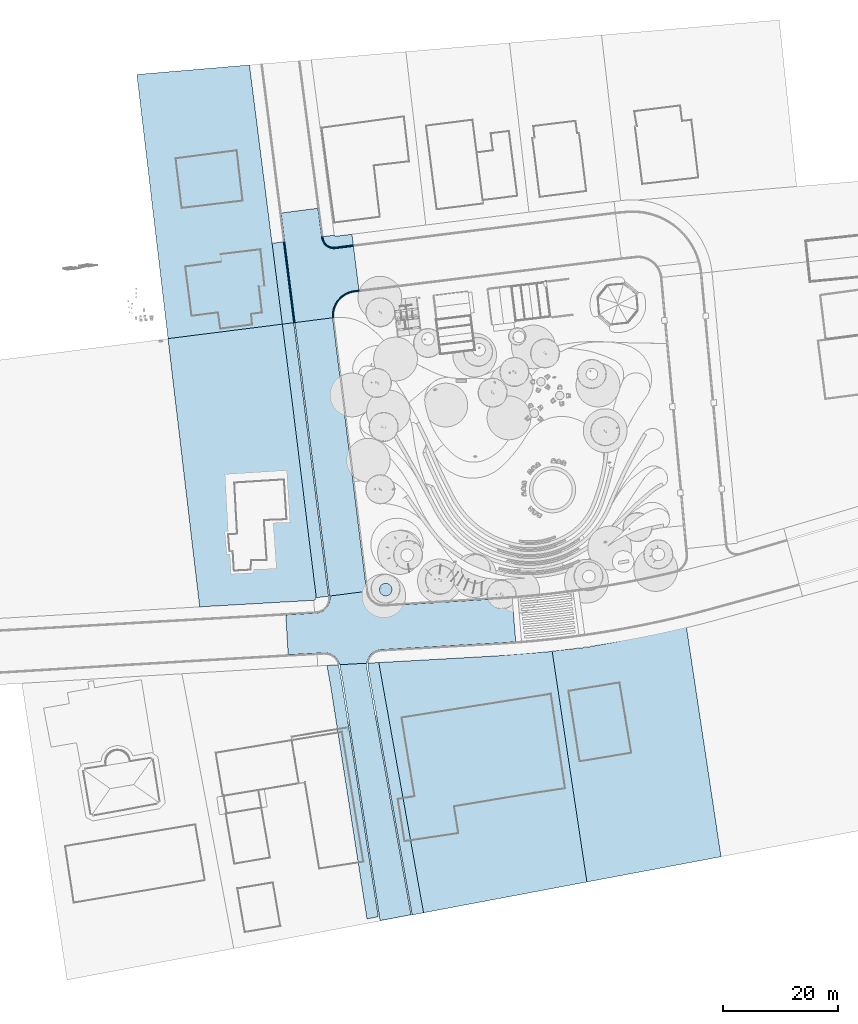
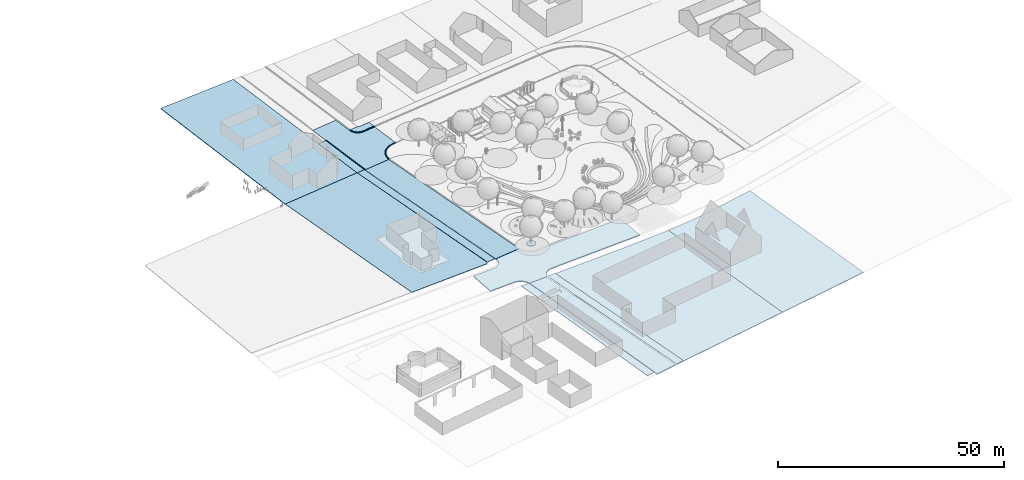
# One storey, part 8 of 75: 17 slabs.
"""IFC2X3 building model written with IfcOpenShell, lengths in metres."""

from ifc_helpers import new_model, entity, si_unit, converted_unit, derived_unit, direction, frame, frame_2d, origin, place, context, subcontext, project, spatial, polyline, circle_curve, ellipse_curve, parameter, trimmed, segment, composite_curve, circle, outline, extrude, clip, halfspace, material, layer, layer_set, layer_usage, type_object, element, save


model = new_model("IFC2X3")

# Units and contexts
model_context = context("Model", 3, precision=1e-05, world=origin(), true_north=direction((6.123031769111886e-17, 1.0)))
body_context = subcontext(model_context, "Body", "Model", "MODEL_VIEW")
ifc_project = project(units=[si_unit("LENGTHUNIT", "METRE"), si_unit("AREAUNIT", "SQUARE_METRE"), si_unit("VOLUMEUNIT", "CUBIC_METRE"), converted_unit("PLANEANGLEUNIT", "DEGREE", entity("IfcRatioMeasure", 0.017453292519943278), si_unit("PLANEANGLEUNIT", "RADIAN"), dimensions=[0, 0, 0, 0, 0, 0, 0]), si_unit("MASSUNIT", "GRAM", prefix="KILO"), derived_unit("MASSDENSITYUNIT", [(si_unit("MASSUNIT", "GRAM", prefix="KILO"), 1), (si_unit("LENGTHUNIT", "METRE"), -3)]), derived_unit("IONCONCENTRATIONUNIT", [(si_unit("MASSUNIT", "GRAM", prefix="KILO"), 1), (si_unit("LENGTHUNIT", "METRE"), -3)]), derived_unit("MOMENTOFINERTIAUNIT", [(si_unit("LENGTHUNIT", "METRE"), 4)]), si_unit("TIMEUNIT", "SECOND"), si_unit("FREQUENCYUNIT", "HERTZ"), si_unit("THERMODYNAMICTEMPERATUREUNIT", "DEGREE_CELSIUS"), derived_unit("THERMALTRANSMITTANCEUNIT", [(si_unit("MASSUNIT", "GRAM", prefix="KILO"), 1), (si_unit("THERMODYNAMICTEMPERATUREUNIT", "KELVIN"), -1), (si_unit("TIMEUNIT", "SECOND"), -3)]), derived_unit("THERMALCONDUCTANCEUNIT", [(si_unit("MASSUNIT", "GRAM", prefix="KILO"), 1), (si_unit("THERMODYNAMICTEMPERATUREUNIT", "KELVIN"), -1), (si_unit("TIMEUNIT", "SECOND"), -3), (si_unit("LENGTHUNIT", "METRE"), 1)]), derived_unit("VOLUMETRICFLOWRATEUNIT", [(si_unit("LENGTHUNIT", "METRE"), 3), (si_unit("TIMEUNIT", "SECOND"), -1)]), derived_unit("MASSFLOWRATEUNIT", [(si_unit("MASSUNIT", "GRAM", prefix="KILO"), 1), (si_unit("TIMEUNIT", "SECOND"), -1)]), derived_unit("ROTATIONALFREQUENCYUNIT", [(si_unit("TIMEUNIT", "SECOND"), -1)]), si_unit("ELECTRICCURRENTUNIT", "AMPERE"), si_unit("ELECTRICVOLTAGEUNIT", "VOLT"), si_unit("POWERUNIT", "WATT"), si_unit("FORCEUNIT", "NEWTON", prefix="KILO"), si_unit("ILLUMINANCEUNIT", "LUX"), si_unit("LUMINOUSFLUXUNIT", "LUMEN"), si_unit("LUMINOUSINTENSITYUNIT", "CANDELA"), derived_unit("USERDEFINED", [(si_unit("MASSUNIT", "GRAM", prefix="KILO"), -1), (si_unit("LENGTHUNIT", "METRE"), -2), (si_unit("TIMEUNIT", "SECOND"), 3), (si_unit("LUMINOUSFLUXUNIT", "LUMEN"), 1)]), derived_unit("USERDEFINED", [(si_unit("MASSUNIT", "GRAM", prefix="KILO"), 1), (si_unit("TIMEUNIT", "SECOND"), -3), (si_unit("LENGTHUNIT", "METRE"), 3), (si_unit("ELECTRICCURRENTUNIT", "AMPERE"), -2)]), derived_unit("SOUNDPOWERUNIT", [(si_unit("MASSUNIT", "GRAM", prefix="KILO"), 1), (si_unit("TIMEUNIT", "SECOND"), -3), (si_unit("LENGTHUNIT", "METRE"), 2)]), derived_unit("SOUNDPRESSUREUNIT", [(si_unit("MASSUNIT", "GRAM", prefix="KILO"), 1), (si_unit("LENGTHUNIT", "METRE"), -1), (si_unit("TIMEUNIT", "SECOND"), -2)]), derived_unit("LINEARVELOCITYUNIT", [(si_unit("LENGTHUNIT", "METRE"), 1), (si_unit("TIMEUNIT", "SECOND"), -1)]), si_unit("PRESSUREUNIT", "PASCAL"), derived_unit("USERDEFINED", [(si_unit("MASSUNIT", "GRAM", prefix="KILO"), 1), (si_unit("LENGTHUNIT", "METRE"), -2), (si_unit("TIMEUNIT", "SECOND"), -2)]), derived_unit("LINEARFORCEUNIT", [(si_unit("MASSUNIT", "GRAM", prefix="KILO"), 1), (si_unit("TIMEUNIT", "SECOND"), -2)]), derived_unit("PLANARFORCEUNIT", [(si_unit("MASSUNIT", "GRAM", prefix="KILO"), 1), (si_unit("LENGTHUNIT", "METRE"), -1), (si_unit("TIMEUNIT", "SECOND"), -2)]), derived_unit("SPECIFICHEATCAPACITYUNIT", [(si_unit("THERMODYNAMICTEMPERATUREUNIT", "KELVIN"), -1), (si_unit("LENGTHUNIT", "METRE"), 2), (si_unit("TIMEUNIT", "SECOND"), -2)]), derived_unit("HEATINGVALUEUNIT", [(si_unit("LENGTHUNIT", "METRE"), 2), (si_unit("TIMEUNIT", "SECOND"), -2)]), derived_unit("VAPORPERMEABILITYUNIT", [(si_unit("LENGTHUNIT", "METRE"), -1), (si_unit("TIMEUNIT", "SECOND"), 1)]), derived_unit("DYNAMICVISCOSITYUNIT", [(si_unit("MASSUNIT", "GRAM", prefix="KILO"), 1), (si_unit("TIMEUNIT", "SECOND"), -1), (si_unit("LENGTHUNIT", "METRE"), -1)]), derived_unit("THERMALEXPANSIONCOEFFICIENTUNIT", [(si_unit("THERMODYNAMICTEMPERATUREUNIT", "KELVIN"), -1)]), derived_unit("MODULUSOFELASTICITYUNIT", [(si_unit("MASSUNIT", "GRAM", prefix="KILO"), 1), (si_unit("LENGTHUNIT", "METRE"), -1), (si_unit("TIMEUNIT", "SECOND"), -2)]), derived_unit("ISOTHERMALMOISTURECAPACITYUNIT", [(si_unit("LENGTHUNIT", "METRE"), 3), (si_unit("MASSUNIT", "GRAM", prefix="KILO"), -1)]), derived_unit("MOISTUREDIFFUSIVITYUNIT", [(si_unit("TIMEUNIT", "SECOND"), -1), (si_unit("LENGTHUNIT", "METRE"), 2)])], contexts=[model_context])

# Site, building, storey
site_placement = place(None, origin())
site = spatial("IfcSite", under=ifc_project, at=site_placement, Name="Default", CompositionType="ELEMENT")
building_placement = place(site_placement, origin())
building = spatial("IfcBuilding", under=site, at=building_placement, Name="Projeto", CompositionType="ELEMENT")
storey_placement = place(building_placement, origin())
storey = spatial("IfcBuildingStorey", under=building, at=storey_placement, Name="Nível 1", CompositionType="ELEMENT", Elevation=0.0)

# Slabs
ifc_material_1 = material(Name="Piso CAJOI PASSEIO(1)")
ifc_layer_1 = layer(ifc_material_1, 0.1)
ifc_layer_set_1 = layer_set([ifc_layer_1], Name="Piso:Basalto 40x80")
ifc_layer_usage_1 = layer_usage(ifc_layer_set_1, "AXIS3", "POSITIVE", 0.0)
slab_type_1 = type_object("IfcSlabType", Name="Piso:Basalto 40x80", PredefinedType="FLOOR", material=ifc_layer_set_1)
slab_1_placement = place(storey_placement, origin())
element("IfcSlab", 1, at=slab_1_placement, inside=storey, type_object=slab_type_1, material=ifc_layer_usage_1, Name="Piso:Basalto 40x80", ObjectType="Piso:Basalto 40x80", PredefinedType="FLOOR", context=body_context, shape_type="SweptSolid", body=[
    extrude(outline(composite_curve([segment(polyline([(0.418029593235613, -0.9754166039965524), (2.296980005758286, -1.6315296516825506)]), True, "CONTINUOUS"), segment(trimmed(circle_curve(frame_2d((0.5646139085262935, -0.8219183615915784), x_axis=(0.30859720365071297, 0.9511928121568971)), 1.912214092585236), [parameter(262.9259478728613)], [parameter(0.0)], True, "PARAMETER"), True, "CONTINUOUS"), segment(polyline([(1.1547178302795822, 0.9969659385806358), (-1.7678358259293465, 2.03730721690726)]), True, "CONTINUOUS"), segment(polyline([(-1.7678358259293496, 2.0373072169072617), (-2.3983748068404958, 0.265980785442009)]), True, "CONTINUOUS"), segment(polyline([(-2.398374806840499, 0.26598078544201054), (0.2964832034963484, -0.693307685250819)]), True, "CONTINUOUS"), segment(trimmed(circle_curve(frame_2d((0.02986929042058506, -0.9754166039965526), x_axis=(1.0, 0.0)), 0.38816030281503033), [parameter(0.0)], [parameter(46.617506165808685)], True, "PARAMETER"), False, "CONTINUOUS")], self_intersect=False)), frame((-28.262879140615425, 42.87375954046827, -2.6), z_axis=(0.0, 0.0, 1.0), x_axis=(-0.8932114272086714, -0.44963690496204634, 0.0)), (0.0, 0.0, -1.0), 0.1),
])
slab_2_placement = place(storey_placement, frame((-38.06998931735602, -19.24905074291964, -2.7001481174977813)))
element("IfcSlab", 2, at=slab_2_placement, inside=storey, type_object=slab_type_1, material=ifc_layer_usage_1, Name="Piso:Basalto 40x80", ObjectType="Piso:Basalto 40x80", PredefinedType="FLOOR", context=body_context, shape_type="SweptSolid", body=[
    extrude(outline(composite_curve([segment(trimmed(ellipse_curve(frame_2d((-1.6447406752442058, 0.040947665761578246), x_axis=(0.9921098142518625, 0.12537191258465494)), 0.6563738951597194, 0.657346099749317), [parameter(337.94521289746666)], [parameter(350.21827633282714)], True, "PARAMETER"), False, "CONTINUOUS"), segment(polyline([(-1.0102513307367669, -0.12766443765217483), (1.1359137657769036, 0.14354427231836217)]), True, "CONTINUOUS"), segment(polyline([(1.1359137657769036, 0.14354427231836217), (-4.879061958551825, 47.586813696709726)]), True, "CONTINUOUS"), segment(polyline([(-4.879061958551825, 47.586813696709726), (-6.865007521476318, 47.335851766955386)]), True, "CONTINUOUS"), segment(polyline([(-6.865007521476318, 47.335851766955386), (-5.1459465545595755, 33.73234822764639)]), True, "CONTINUOUS"), segment(polyline([(-5.1459465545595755, 33.73234822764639), (-2.86485437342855, 15.219456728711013)]), True, "CONTINUOUS"), segment(polyline([(-2.86485437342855, 15.219456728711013), (-2.0992302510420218, 8.875707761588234)]), True, "CONTINUOUS"), segment(polyline([(-2.0992302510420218, 8.875707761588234), (-1.33942043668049, 2.768838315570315)]), True, "CONTINUOUS"), segment(polyline([(-1.33942043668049, 2.768838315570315), (-0.9890111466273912, 0.011243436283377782)]), True, "CONTINUOUS")], self_intersect=False)), frame((6.864847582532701, 0.12785055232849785, 2.7001481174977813), z_axis=(-0.0068260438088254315, 0.05393687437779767, 0.9985210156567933), x_axis=(0.9999767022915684, 0.0003681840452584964, 0.006816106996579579)), (-0.006816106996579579, 0.05393813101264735, -0.9985210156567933), 0.10014811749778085),
])
slab_3_placement = place(storey_placement, origin())
element("IfcSlab", 3, at=slab_3_placement, inside=storey, type_object=slab_type_1, material=ifc_layer_usage_1, Name="Piso:Basalto 40x80", ObjectType="Piso:Basalto 40x80", PredefinedType="FLOOR", context=body_context, shape_type="SweptSolid", body=[
    extrude(outline(polyline([(-7.063070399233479, -1.0), (7.059367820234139, -1.0), (7.058552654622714, 1.0), (-7.054850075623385, 1.0), (-7.063070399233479, -1.0)])), frame((-37.96531660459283, 35.271728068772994, -2.6), z_axis=(0.0, 0.0, -1.0), x_axis=(0.1259590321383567, -0.9920354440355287, 0.0)), (0.0, 0.0, 1.0), 0.1),
])
ifc_layer_2 = layer(ifc_material_1, 0.1)
ifc_layer_set_2 = layer_set([ifc_layer_2], Name="Piso:Basalto Flameado 40x20 (Passeio)")
ifc_layer_usage_2 = layer_usage(ifc_layer_set_2, "AXIS3", "POSITIVE", 0.0)
slab_type_2 = type_object("IfcSlabType", Name="Piso:Basalto Flameado 40x20 (Passeio)", PredefinedType="FLOOR", material=ifc_layer_set_2)
slab_4_placement = place(storey_placement, origin())
element("IfcSlab", 4, at=slab_4_placement, inside=storey, type_object=slab_type_2, material=ifc_layer_usage_2, Name="Piso:Basalto Flameado 40x20 (Passeio)", ObjectType="Piso:Basalto Flameado 40x20 (Passeio)", PredefinedType="FLOOR", context=body_context, shape_type="SweptSolid", body=[
    extrude(outline(polyline([(-15.750528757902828, -1.3410978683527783), (-12.543916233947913, -1.3410978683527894), (28.42552584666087, -0.3182821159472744), (28.43884569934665, 1.6826735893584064), (-12.56887767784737, 0.658902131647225), (-16.00104887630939, 0.6589021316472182), (-15.750528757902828, -1.3410978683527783)])), frame((-26.834000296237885, -46.59286218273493, 0.0), z_axis=(0.0, 0.0, -1.0), x_axis=(0.1786273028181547, -0.9839168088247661, 0.0)), (0.0, 0.0, 1.0), 0.1),
])
slab_5_placement = place(storey_placement, origin())
element("IfcSlab", 5, at=slab_5_placement, inside=storey, type_object=slab_type_2, material=ifc_layer_usage_2, Name="Piso:Basalto Flameado 40x20 (Passeio)", ObjectType="Piso:Basalto Flameado 40x20 (Passeio)", PredefinedType="FLOOR", context=body_context, shape_type="SweptSolid", body=[
    extrude(outline(composite_curve([segment(polyline([(-2.87458965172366, -17.69827243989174), (-0.9901811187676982, -17.698272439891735)]), True, "CONTINUOUS"), segment(polyline([(-0.9901811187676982, -17.698272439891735), (4.377035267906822, 26.01427654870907)]), True, "CONTINUOUS"), segment(polyline([(4.377035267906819, 26.01427654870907), (2.3941597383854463, 26.27606944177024)]), True, "CONTINUOUS"), segment(polyline([(2.394159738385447, 26.276069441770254), (-2.9064242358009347, -16.893801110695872)]), True, "CONTINUOUS"), segment(trimmed(circle_curve(frame_2d((-0.4250587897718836, -17.198473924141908), x_axis=(-0.9925461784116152, 0.12186912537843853)), 2.4999999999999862), [parameter(0.0)], [parameter(18.532233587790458)], True, "PARAMETER"), True, "CONTINUOUS")], self_intersect=False)), frame((-19.402825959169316, -48.08995195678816, 0.0), z_axis=(0.0, 0.0, -1.0), x_axis=(0.9984889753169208, 0.05495239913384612, 0.0)), (0.0, 0.0, 1.0), 0.1),
])
ifc_material_2 = material(Name="Concreto, Faixa de areia/cimento")
ifc_layer_3 = layer(ifc_material_2, 0.05)
ifc_material_3 = material(Name="Concreto, Moldado no local")
ifc_layer_4 = layer(ifc_material_3, 0.17500000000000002)
ifc_layer_set_3 = layer_set([ifc_layer_3, ifc_layer_4], Name="Piso:Concreto moldado em loco 225 mm")
ifc_layer_usage_3 = layer_usage(ifc_layer_set_3, "AXIS3", "POSITIVE", 0.0)
slab_type_3 = type_object("IfcSlabType", Name="Piso:Concreto moldado em loco 225 mm", PredefinedType="FLOOR", material=ifc_layer_set_3)
slab_6_placement = place(storey_placement, origin())
element("IfcSlab", 6, at=slab_6_placement, inside=storey, type_object=slab_type_3, material=ifc_layer_usage_3, Name="Piso:Concreto moldado em loco 225 mm", ObjectType="Piso:Concreto moldado em loco 225 mm", PredefinedType="FLOOR", context=body_context, shape_type="SweptSolid", body=[
    extrude(outline(composite_curve([segment(polyline([(-5.1898167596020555, -3.979848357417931), (-5.189816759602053, -4.793106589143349)]), True, "CONTINUOUS"), segment(polyline([(-5.189816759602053, -4.793106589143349), (2.5068230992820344, -4.778350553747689)]), True, "CONTINUOUS"), segment(polyline([(2.5068230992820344, -4.778350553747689), (2.5008808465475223, -1.678915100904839)]), True, "CONTINUOUS"), segment(trimmed(circle_curve(frame_2d((4.612218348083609, -1.6180683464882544), x_axis=(-0.007946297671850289, 0.999968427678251)), 2.1122140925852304), [parameter(0.0)], [parameter(91.1954592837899)], True, "PARAMETER"), False, "CONTINUOUS"), segment(polyline([(4.595434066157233, 0.494079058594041), (9.788482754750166, 0.5353458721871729)]), True, "CONTINUOUS"), segment(polyline([(9.788482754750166, 0.5353458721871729), (9.73728642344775, 6.977932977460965)]), True, "CONTINUOUS"), segment(polyline([(9.73728642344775, 6.977932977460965), (-9.385927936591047, 6.904571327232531)]), True, "CONTINUOUS"), segment(polyline([(-9.385927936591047, 6.904571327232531), (-9.363345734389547, 0.3182913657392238)]), True, "CONTINUOUS"), segment(trimmed(circle_curve(frame_2d((-9.489816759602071, -3.979848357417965), x_axis=(1.0, 0.0)), 4.300000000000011), [parameter(0.0)], [parameter(88.31458113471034)], True, "PARAMETER"), False, "CONTINUOUS")], self_intersect=False)), frame((-30.179321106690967, 38.57870511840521, -2.7200000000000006), z_axis=(0.0, 0.0, 1.0), x_axis=(-0.12215242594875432, 0.9925113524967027, 0.0)), (0.0, 0.0, -1.0), 0.22499999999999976),
])
slab_7_placement = place(storey_placement, origin())
element("IfcSlab", 7, at=slab_7_placement, inside=storey, type_object=slab_type_3, material=ifc_layer_usage_3, Name="Piso:Concreto moldado em loco 225 mm", ObjectType="Piso:Concreto moldado em loco 225 mm", PredefinedType="FLOOR", context=body_context, shape_type="SweptSolid", body=[
    clip(clip(extrude(outline(polyline([(-3.270617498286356, -23.91206686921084), (3.3136837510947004, -23.91206686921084), (3.208088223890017, 23.912066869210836), (-3.251154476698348, 23.912066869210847), (-3.270617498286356, -23.91206686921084)])), frame((-29.643173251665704, 5.1430791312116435, -1.4100000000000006), z_axis=(0.00687839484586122, -0.054350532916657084, -0.9984982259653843), x_axis=(0.9920867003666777, 0.12555468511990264, 0.0)), (0.0, -0.0547840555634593, 0.9984982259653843), 0.22567732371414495), halfspace(frame((-26.6228420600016, -18.541281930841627, -0.3253384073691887), z_axis=(0.006878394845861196, -0.054350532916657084, -0.9984982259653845), x_axis=(-0.12536613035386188, 0.99059681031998, -0.054784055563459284)), False)), halfspace(frame((-26.6228420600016, -18.541281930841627, -0.1), z_axis=(-0.006878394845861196, 0.054350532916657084, 0.9984982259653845), x_axis=(0.12536613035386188, -0.99059681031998, 0.054784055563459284)), False)),
])
slab_8_placement = place(storey_placement, frame((-37.47088444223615, -30.84529528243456, -0.34500000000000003)))
element("IfcSlab", 8, at=slab_8_placement, inside=storey, type_object=slab_type_3, material=ifc_layer_usage_3, Name="Piso:Concreto moldado em loco 225 mm:2", ObjectType="Piso:Concreto moldado em loco 225 mm", PredefinedType="FLOOR", context=body_context, shape_type="SweptSolid", body=[
    extrude(outline(composite_curve([segment(trimmed(circle_curve(frame_2d((27.59377919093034, 2.351514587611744), x_axis=(-1.0, 0.0)), 2.9000000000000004), [parameter(86.40861856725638)], [parameter(172.32462165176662)], True, "PARAMETER"), False, "CONTINUOUS"), segment(polyline([(27.412122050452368, -0.5427902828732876), (5.246108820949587, 0.8484296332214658)]), True, "CONTINUOUS"), segment(polyline([(5.246108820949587, 0.8484296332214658), (4.626814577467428, -6.7752112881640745)]), True, "CONTINUOUS"), segment(trimmed(circle_curve(frame_2d((18.382006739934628, 174.90482253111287), x_axis=(-1.0, 0.0)), 182.20000000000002), [parameter(85.67033465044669)], [parameter(86.72759495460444)], True, "PARAMETER"), True, "CONTINUOUS"), segment(polyline([(7.981448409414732, -6.998086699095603), (27.918202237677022, -8.1379990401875)]), True, "CONTINUOUS"), segment(trimmed(circle_curve(frame_2d((27.76407760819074, -10.833596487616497), x_axis=(-1.0, 0.0)), 2.7), [parameter(187.5174510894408)], [parameter(266.72759495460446)], True, "PARAMETER"), False, "CONTINUOUS"), segment(polyline([(30.44087126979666, -10.480360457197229), (35.12344313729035, -10.738068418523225)]), True, "CONTINUOUS"), segment(trimmed(circle_curve(frame_2d((37.745814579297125, -11.380849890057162), x_axis=(-1.0, 0.0)), 2.6999999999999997), [parameter(266.84987265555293)], [parameter(346.2275063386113)], True, "PARAMETER"), False, "CONTINUOUS"), segment(polyline([(37.89418605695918, -8.684929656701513), (44.05179929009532, -9.023817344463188)]), True, "CONTINUOUS"), segment(polyline([(44.05179929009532, -9.023817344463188), (44.46262217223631, -2.1023726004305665)]), True, "CONTINUOUS"), segment(polyline([(44.46262217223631, -2.1023726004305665), (39.177640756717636, -1.788682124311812)]), True, "CONTINUOUS"), segment(trimmed(circle_curve(frame_2d((39.325767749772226, 0.7069256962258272), x_axis=(-1.0, 0.0)), 2.4999999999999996), [parameter(352.76385796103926)], [parameter(86.60318990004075)], True, "PARAMETER"), False, "CONTINUOUS"), segment(polyline([(36.8456791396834, 1.0218232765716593), (36.86257480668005, 1.1548911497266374)]), True, "CONTINUOUS"), segment(polyline([(36.86257480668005, 1.1548911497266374), (30.467797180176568, 1.9641896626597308)]), True, "CONTINUOUS")], self_intersect=False)), frame((44.462622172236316, 10.738068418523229, 0.225), z_axis=(0.0, 0.0, -1.0), x_axis=(-1.0, 0.0, 0.0)), (0.0, 0.0, 1.0), 0.225),
])
slab_9_placement = place(storey_placement, origin())
element("IfcSlab", 9, at=slab_9_placement, inside=storey, type_object=slab_type_3, material=ifc_layer_usage_3, Name="Piso:Concreto moldado em loco 225 mm", ObjectType="Piso:Concreto moldado em loco 225 mm", PredefinedType="FLOOR", context=body_context, shape_type="SweptSolid", body=[
    extrude(outline(composite_curve([segment(polyline([(-14.417012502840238, -2.3938865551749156), (29.017262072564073, -2.393886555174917)]), True, "CONTINUOUS"), segment(polyline([(29.017262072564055, -2.393886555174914), (29.066864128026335, 3.0598166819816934)]), True, "CONTINUOUS"), segment(polyline([(29.066864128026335, 3.0598166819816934), (-12.623310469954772, 2.1207146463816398)]), True, "CONTINUOUS"), segment(polyline([(-12.623310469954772, 2.1207146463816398), (-15.807357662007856, 2.128478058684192)]), True, "CONTINUOUS"), segment(polyline([(-15.807357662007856, 2.128478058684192), (-15.236445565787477, -2.5212362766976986)]), True, "CONTINUOUS"), segment(trimmed(circle_curve(frame_2d((-14.417012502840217, -5.093886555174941), x_axis=(-0.30349372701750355, 0.9528334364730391)), 2.7000000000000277), [parameter(342.33243415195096)], [parameter(0.0)], True, "PARAMETER"), False, "CONTINUOUS")], self_intersect=False)), frame((-23.24582614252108, -46.029885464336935, -0.12), z_axis=(0.0, 0.0, -1.0), x_axis=(0.1762277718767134, -0.9843494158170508, 0.0)), (0.0, 0.0, 1.0), 0.22499999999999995),
])
ifc_material_4 = material(Name="Concreto moldado In loco")
ifc_layer_5 = layer(ifc_material_4, 0.12)
ifc_layer_set_4 = layer_set([ifc_layer_5], Name="Piso:meio fio de concreto")
ifc_layer_usage_4 = layer_usage(ifc_layer_set_4, "AXIS3", "POSITIVE", 0.0)
slab_type_4 = type_object("IfcSlabType", Name="Piso:meio fio de concreto", PredefinedType="FLOOR", material=ifc_layer_set_4)
slab_10_placement = place(storey_placement, frame((-37.86293867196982, 28.394544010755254, -2.72)))
element("IfcSlab", 10, at=slab_10_placement, inside=storey, type_object=slab_type_4, material=ifc_layer_usage_4, Name="Piso:meio fio de concreto", ObjectType="Piso:meio fio de concreto", PredefinedType="FLOOR", context=body_context, shape_type="SweptSolid", body=[
    extrude(outline(composite_curve([segment(trimmed(circle_curve(frame_2d((-6.2430713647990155, -6.199659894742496), x_axis=(-1.0, 0.0)), 4.300000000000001), [parameter(174.6690773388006)], [parameter(262.98365847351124)], True, "PARAMETER"), True, "CONTINUOUS"), segment(polyline([(-5.717815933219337, -1.9318610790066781), (-6.524983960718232, -1.832519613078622)]), True, "CONTINUOUS"), segment(polyline([(-6.524983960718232, -1.832519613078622), (-6.549795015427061, -2.0309750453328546)]), True, "CONTINUOUS"), segment(polyline([(-6.549795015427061, -2.0309750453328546), (-5.742246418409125, -2.1303633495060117)]), True, "CONTINUOUS"), segment(trimmed(circle_curve(frame_2d((-6.2430713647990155, -6.199659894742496), x_axis=(-1.0, 0.0)), 4.1000000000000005), [parameter(174.76091119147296)], [parameter(262.9836584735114)], True, "PARAMETER"), False, "CONTINUOUS"), segment(polyline([(-2.1601997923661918, -6.574039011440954), (-1.9616701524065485, -6.599164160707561)]), True, "CONTINUOUS")], self_intersect=False)), frame((6.549795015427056, 7.4512182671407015, 0.11999999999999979), z_axis=(0.0, 0.0, -1.0), x_axis=(-1.0, 0.0, 0.0)), (0.0, 0.0, 1.0), 0.11999999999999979),
])
slab_11_placement = place(storey_placement, frame((-37.86293867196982, 28.394544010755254, -2.72)))
element("IfcSlab", 11, at=slab_11_placement, inside=storey, type_object=slab_type_4, material=ifc_layer_usage_4, Name="Piso:meio fio de concreto:2", ObjectType="Piso:meio fio de concreto", PredefinedType="FLOOR", context=body_context, shape_type="SweptSolid", body=[
    extrude(outline(composite_curve([segment(trimmed(circle_curve(frame_2d((-2.1763800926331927, 7.508272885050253), x_axis=(-1.0, 0.0)), 2.1122140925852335), [parameter(81.33290507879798)], [parameter(172.52836436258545)], True, "PARAMETER"), True, "CONTINUOUS"), segment(polyline([(-0.0821000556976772, 7.233610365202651), (-0.05697181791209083, 7.425211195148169)]), True, "CONTINUOUS"), segment(polyline([(-0.05697181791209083, 7.425211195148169), (-0.2552736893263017, 7.4512182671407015)]), True, "CONTINUOUS"), segment(polyline([(-0.2552736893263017, 7.4512182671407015), (-0.28040192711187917, 7.259617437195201)]), True, "CONTINUOUS"), segment(trimmed(circle_curve(frame_2d((-2.1763800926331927, 7.508272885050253), x_axis=(-1.0, 0.0)), 1.9122140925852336), [parameter(81.2543212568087)], [parameter(172.52836436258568)], True, "PARAMETER"), False, "CONTINUOUS"), segment(polyline([(-2.467130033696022, 5.618292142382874), (-5.5453641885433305, 6.003135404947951)]), True, "CONTINUOUS"), segment(polyline([(-5.5453641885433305, 6.003135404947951), (-5.570175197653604, 5.8046803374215)]), True, "CONTINUOUS"), segment(polyline([(-5.570175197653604, 5.8046803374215), (-2.4946761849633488, 5.42017902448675)]), True, "CONTINUOUS")], self_intersect=False)), frame((6.549795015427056, 7.4512182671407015, 0.11999999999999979), z_axis=(0.0, 0.0, -1.0), x_axis=(-1.0, 0.0, 0.0)), (0.0, 0.0, 1.0), 0.11999999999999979),
])
slab_12_placement = place(storey_placement, frame((-37.86293867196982, 28.394544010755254, -2.72)))
element("IfcSlab", 12, at=slab_12_placement, inside=storey, type_object=slab_type_4, material=ifc_layer_usage_4, Name="Piso:meio fio de concreto:3", ObjectType="Piso:meio fio de concreto", PredefinedType="FLOOR", context=body_context, shape_type="SweptSolid", body=[
    extrude(outline(polyline([(4.572529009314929, -7.426107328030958), (4.7709463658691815, -7.4512182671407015), (6.549795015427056, 6.558741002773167), (6.351491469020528, 6.5847482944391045), (4.572529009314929, -7.426107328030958)])), frame((6.549795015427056, 7.4512182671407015, 0.11999999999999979), z_axis=(0.0, 0.0, -1.0), x_axis=(-1.0, 0.0, 0.0)), (0.0, 0.0, 1.0), 0.11999999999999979),
])
ifc_material_5 = material(Name="<Unnamed>")
ifc_layer_6 = layer(ifc_material_5, 0.14999999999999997)
ifc_layer_set_5 = layer_set([ifc_layer_6], Name="Piso:Genérico 150 mm")
ifc_layer_usage_5 = layer_usage(ifc_layer_set_5, "AXIS3", "POSITIVE", 0.0)
slab_type_5 = type_object("IfcSlabType", Name="Piso:Genérico 150 mm", PredefinedType="FLOOR", material=ifc_layer_set_5)
slab_13_placement = place(storey_placement, origin())
element("IfcSlab", 13, at=slab_13_placement, inside=storey, type_object=slab_type_5, material=ifc_layer_usage_5, Name="Piso:Genérico 150 mm", ObjectType="Piso:Genérico 150 mm", PredefinedType="FLOOR", context=body_context, shape_type="SweptSolid", body=[
    extrude(outline(polyline([(-13.290711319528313, 11.30374566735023), (-12.192290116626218, 2.331357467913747), (-14.175258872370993, 2.07027166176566), (-9.606446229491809, -32.6302463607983), (20.60649757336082, -28.65228616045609), (16.810422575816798, 11.559186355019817), (9.6257873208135, 11.390378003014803), (7.289709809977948, 11.323847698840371), (-5.067710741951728, 11.30374566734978), (-13.290711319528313, 11.30374566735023)])), frame((-7.468513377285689, -41.02418950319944, -0.1), z_axis=(0.0, 0.0, 1.0), x_axis=(0.9984693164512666, 0.05530844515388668, 0.0)), (0.0, 0.0, -1.0), 0.14999999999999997),
])
slab_14_placement = place(storey_placement, origin())
element("IfcSlab", 14, at=slab_14_placement, inside=storey, type_object=slab_type_5, material=ifc_layer_usage_5, Name="Piso:Genérico 150 mm", ObjectType="Piso:Genérico 150 mm", PredefinedType="FLOOR", context=body_context, shape_type="SweptSolid", body=[
    extrude(outline(polyline([(-12.121090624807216, -14.214013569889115), (28.20029362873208, -14.214013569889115), (29.069658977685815, 9.407562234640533), (-11.320596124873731, 9.407562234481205), (-11.361845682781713, 8.444570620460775), (-11.134952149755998, 3.4652582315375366), (-11.331468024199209, -2.2969261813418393), (-12.121090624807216, -14.214013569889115)])), frame((19.665229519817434, -38.346497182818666, -0.1), z_axis=(0.0, 0.0, -1.0), x_axis=(0.14890469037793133, -0.9888515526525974, 0.0)), (0.0, 0.0, 1.0), 0.14999999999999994),
])
slab_15_placement = place(storey_placement, frame((-57.872843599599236, -20.83071642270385, -2.729609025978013)))
element("IfcSlab", 15, at=slab_15_placement, inside=storey, type_object=slab_type_5, material=ifc_layer_usage_5, Name="Piso:Genérico 150 mm", ObjectType="Piso:Genérico 150 mm", PredefinedType="FLOOR", context=body_context, shape_type="SweptSolid", body=[
    extrude(outline(composite_curve([segment(polyline([(-5.21931031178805, 33.32214742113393), (-6.938368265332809, 46.92411027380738)]), True, "CONTINUOUS"), segment(polyline([(-6.938368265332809, 46.92411027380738), (-26.741649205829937, 44.42131064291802)]), True, "CONTINUOUS"), segment(polyline([(-26.741649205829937, 44.42131064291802), (-21.25796656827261, -2.110953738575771)]), True, "CONTINUOUS"), segment(polyline([(-21.25796656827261, -2.110953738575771), (-1.4797495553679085, -0.9779301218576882)]), True, "CONTINUOUS"), segment(trimmed(ellipse_curve(frame_2d((-1.718110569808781, -0.36545834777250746), x_axis=(0.9921080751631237, 0.12538567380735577)), 0.6563738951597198, 0.6572728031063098), [parameter(284.08039521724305)], [parameter(337.9452128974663)], True, "PARAMETER"), True, "CONTINUOUS"), segment(trimmed(ellipse_curve(frame_2d((-1.718110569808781, -0.36545834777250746), x_axis=(0.9921080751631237, 0.12538567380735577)), 0.6563738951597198, 0.6572728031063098), [parameter(337.94521289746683)], [parameter(350.2182763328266)], True, "PARAMETER"), True, "CONTINUOUS"), segment(polyline([(-1.0623821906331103, -0.39514112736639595), (-1.412790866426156, 2.3621413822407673)]), True, "CONTINUOUS"), segment(polyline([(-1.412790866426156, 2.3621413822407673), (-2.172599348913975, 8.468319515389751)]), True, "CONTINUOUS"), segment(polyline([(-2.172599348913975, 8.468319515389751), (-2.9382221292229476, 14.811351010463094)]), True, "CONTINUOUS"), segment(polyline([(-2.9382221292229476, 14.811351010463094), (-5.21931031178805, 33.32214742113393)]), True, "CONTINUOUS")], self_intersect=False)), frame((26.74107306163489, 2.115350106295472, 2.629609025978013), z_axis=(-0.0065642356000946, 0.05186816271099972, 0.9986323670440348), x_axis=(0.9999784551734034, 0.0003404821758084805, 0.006555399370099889)), (-0.006555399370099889, 0.05186928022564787, -0.9986323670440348), 0.15020542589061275),
])
slab_16_placement = place(storey_placement, origin())
element("IfcSlab", 16, at=slab_16_placement, inside=storey, type_object=slab_type_5, material=ifc_layer_usage_5, Name="Piso:Genérico 150 mm", ObjectType="Piso:Genérico 150 mm", PredefinedType="FLOOR", context=body_context, shape_type="SweptSolid", body=[
    extrude(outline(polyline([(-22.42468784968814, -9.879577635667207), (22.83642088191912, -9.879577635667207), (22.828284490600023, 10.08297035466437), (-23.240017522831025, 9.676184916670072), (-22.42468784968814, -9.879577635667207)])), frame((-50.745608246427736, 49.55355151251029, -2.6), z_axis=(0.0, 0.0, -1.0), x_axis=(0.12595903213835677, -0.9920354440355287, 0.0)), (0.0, 0.0, 1.0), 0.15),
])
ifc_material_6 = material(Name="floração tipo 2")
ifc_layer_7 = layer(ifc_material_6, 0.04)
ifc_layer_8 = layer(ifc_material_6, 0.16)
ifc_layer_set_6 = layer_set([ifc_layer_7, ifc_layer_8], Name="Piso:Floração tipo 2")
ifc_layer_usage_6 = layer_usage(ifc_layer_set_6, "AXIS3", "POSITIVE", 0.0)
slab_type_6 = type_object("IfcSlabType", Name="Piso:Floração tipo 2", PredefinedType="FLOOR", material=ifc_layer_set_6)
slab_17_placement = place(storey_placement, frame((-21.255087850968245, -18.92636642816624, -0.2)))
element("IfcSlab", 17, at=slab_17_placement, inside=storey, type_object=slab_type_6, material=ifc_layer_usage_6, Name="Piso:Floração tipo 2", ObjectType="Piso:Floração tipo 2", PredefinedType="FLOOR", context=body_context, shape_type="SweptSolid", body=[
    extrude(circle(Radius=1.088876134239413, at=frame_2d((23.607302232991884, -3.044272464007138), x_axis=(1.0, 0.0))), frame((24.696178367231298, 4.13314859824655, 0.2), z_axis=(0.0, 0.0, -1.0), x_axis=(-1.0, 0.0, 0.0)), (0.0, 0.0, 1.0), 0.2),
])

save(model, "model.ifc")
